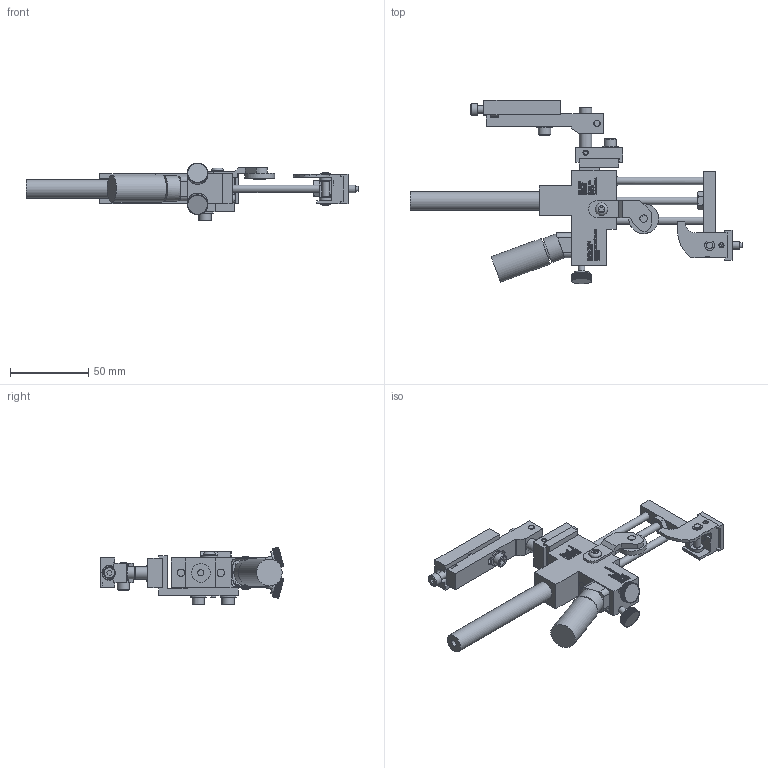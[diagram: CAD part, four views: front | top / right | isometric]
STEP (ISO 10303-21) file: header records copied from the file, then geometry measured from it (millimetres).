
FILE_DESCRIPTION((''),'2;1');
FILE_NAME('C:\Documents and Settings\Ron\My Documents\Inventor\Sprinter Drawing\Machines in Inventor\Model 44\Dot\1-eight\Std\Brkt\Ext\Model 44 STD .125 Dia Dot Ext w brkt.stp','2009-01-14T12:26:48',('Ron'),(''),'Autodesk Inventor 2008','Autodesk Inventor 2008','');
FILE_SCHEMA(('AUTOMOTIVE_DESIGN { 1 0 10303 214 1 1 1 1 }'));
Length unit declared in the file: inch
Products named in the file (1): Model 44 STD .125 Dia Dot Ext w brkt
Bounding box: 211.93 x 117.12 x 36.82 mm (x, y, z)
Volume: 104297.5 mm3; surface area: 51227.1 mm2
Topology: 27 solids, 27 shells, 6187 faces, 15366 edges, 9498 vertices
Faces by surface type: plane 4347, bspline 1317, cylinder 470, cone 48, torus 5
Full cylindrical faces by diameter (mm): 3.175 x5, 3.302 x1, 3.962 x1, 4.064 x7, 4.166 x1, 4.699 x1, 4.75 x4, 4.775 x1, 4.826 x8, 5.144 x1, 5.156 x5, 5.207 x2, 5.41 x2, 6.096 x1, 6.274 x2, 7.239 x1, 7.62 x1, 7.925 x7, 7.938 x1, 8.128 x1, 9.017 x1, 9.525 x2, 10.312 x4, 10.922 x1, 11.036 x1, 11.938 x2, 14.478 x1, 16.256 x1, 17.272 x1, 19.05 x1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
Entity records: 197026 total; most frequent: CARTESIAN_POINT 53981, ORIENTED_EDGE 30282, DIRECTION 23492, EDGE_CURVE 15141, VECTOR 11386, LINE 11386, VERTEX_POINT 9429, EDGE_LOOP 6740
